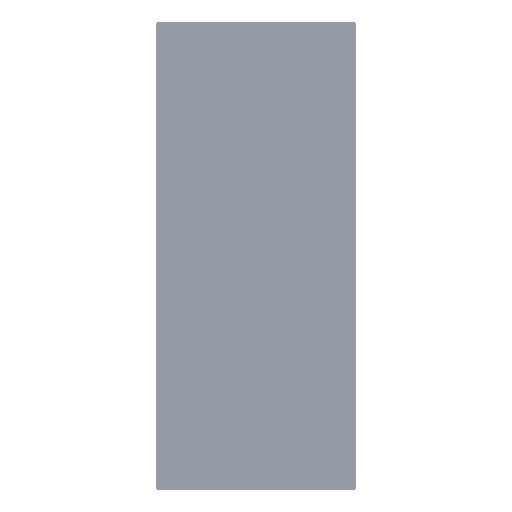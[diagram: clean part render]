
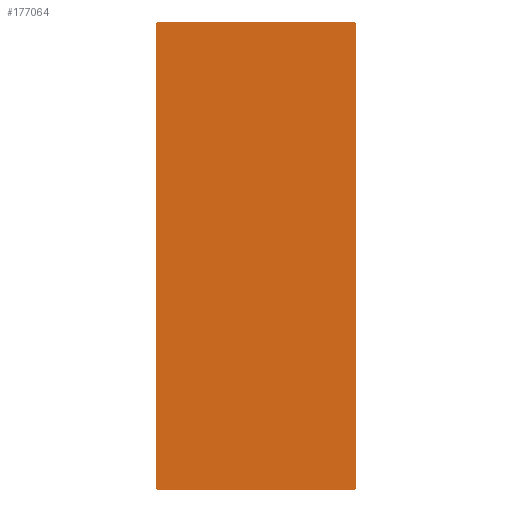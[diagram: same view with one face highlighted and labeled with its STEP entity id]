
A CAD part, top view. The second image highlights one B-rep face of the part: STEP entity #177064.
In plain terms, the highlighted planar face has unit normal (0, 0, 1).
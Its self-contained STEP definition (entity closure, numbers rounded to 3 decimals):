
#8178=CIRCLE('',#191906,2.);
#8183=CIRCLE('',#191914,2.);
#8184=CIRCLE('',#191918,2.);
#8185=CIRCLE('',#191920,2.);
#26289=FACE_OUTER_BOUND('',#37124,.T.);
#37124=EDGE_LOOP('',(#158206,#158207,#158208,#158209,#158210,#158211,#158212,
#158213));
#55276=LINE('',#318042,#73487);
#55282=LINE('',#318063,#73493);
#55284=LINE('',#318066,#73495);
#55287=LINE('',#318076,#73498);
#73487=VECTOR('',#238474,10.);
#73493=VECTOR('',#238494,10.);
#73495=VECTOR('',#238498,10.);
#73498=VECTOR('',#238511,10.);
#88110=VERTEX_POINT('',#318029);
#88111=VERTEX_POINT('',#318030);
#88115=VERTEX_POINT('',#318040);
#88121=VERTEX_POINT('',#318056);
#88122=VERTEX_POINT('',#318058);
#88123=VERTEX_POINT('',#318062);
#88124=VERTEX_POINT('',#318068);
#88125=VERTEX_POINT('',#318072);
#111521=EDGE_CURVE('',#88110,#88111,#8178,.T.);
#111527=EDGE_CURVE('',#88115,#88110,#55276,.T.);
#111535=EDGE_CURVE('',#88121,#88122,#8183,.T.);
#111537=EDGE_CURVE('',#88122,#88123,#55282,.T.);
#111539=EDGE_CURVE('',#88111,#88121,#55284,.T.);
#111540=EDGE_CURVE('',#88123,#88124,#8184,.T.);
#111543=EDGE_CURVE('',#88125,#88115,#8185,.T.);
#111544=EDGE_CURVE('',#88124,#88125,#55287,.T.);
#158206=ORIENTED_EDGE('',*,*,#111521,.F.);
#158207=ORIENTED_EDGE('',*,*,#111527,.F.);
#158208=ORIENTED_EDGE('',*,*,#111543,.F.);
#158209=ORIENTED_EDGE('',*,*,#111544,.F.);
#158210=ORIENTED_EDGE('',*,*,#111540,.F.);
#158211=ORIENTED_EDGE('',*,*,#111537,.F.);
#158212=ORIENTED_EDGE('',*,*,#111535,.F.);
#158213=ORIENTED_EDGE('',*,*,#111539,.F.);
#167306=PLANE('',#191922);
#177064=ADVANCED_FACE('',(#26289),#167306,.T.);
#191906=AXIS2_PLACEMENT_3D('',#318031,#238464,#238465);
#191914=AXIS2_PLACEMENT_3D('',#318059,#238489,#238490);
#191918=AXIS2_PLACEMENT_3D('',#318069,#238501,#238502);
#191920=AXIS2_PLACEMENT_3D('',#318074,#238507,#238508);
#191922=AXIS2_PLACEMENT_3D('',#318077,#238512,#238513);
#238464=DIRECTION('center_axis',(0.,0.,-1.));
#238465=DIRECTION('ref_axis',(0.707,-0.707,0.));
#238474=DIRECTION('',(0.,-1.,0.));
#238489=DIRECTION('center_axis',(0.,0.,-1.));
#238490=DIRECTION('ref_axis',(-0.707,-0.707,0.));
#238494=DIRECTION('',(0.,1.,0.));
#238498=DIRECTION('',(-1.,0.,0.));
#238501=DIRECTION('center_axis',(0.,0.,-1.));
#238502=DIRECTION('ref_axis',(-0.707,0.707,0.));
#238507=DIRECTION('center_axis',(0.,0.,-1.));
#238508=DIRECTION('ref_axis',(0.707,0.707,0.));
#238511=DIRECTION('',(1.,0.,0.));
#238512=DIRECTION('center_axis',(0.,0.,1.));
#238513=DIRECTION('ref_axis',(1.,0.,0.));
#318029=CARTESIAN_POINT('',(57.,-114.,0.5));
#318030=CARTESIAN_POINT('',(55.,-116.,0.5));
#318031=CARTESIAN_POINT('Origin',(55.,-114.,0.5));
#318040=CARTESIAN_POINT('',(57.,148.,0.5));
#318042=CARTESIAN_POINT('',(57.,-113.5,0.5));
#318056=CARTESIAN_POINT('',(-55.,-116.,0.5));
#318058=CARTESIAN_POINT('',(-57.,-114.,0.5));
#318059=CARTESIAN_POINT('Origin',(-55.,-114.,0.5));
#318062=CARTESIAN_POINT('',(-57.,148.,0.5));
#318063=CARTESIAN_POINT('',(-57.,149.5,0.5));
#318066=CARTESIAN_POINT('',(28.5,-116.,0.5));
#318068=CARTESIAN_POINT('',(-55.,150.,0.5));
#318069=CARTESIAN_POINT('Origin',(-55.,148.,0.5));
#318072=CARTESIAN_POINT('',(55.,150.,0.5));
#318074=CARTESIAN_POINT('Origin',(55.,148.,0.5));
#318076=CARTESIAN_POINT('',(-28.5,150.,0.5));
#318077=CARTESIAN_POINT('Origin',(0.,18.,0.5));
